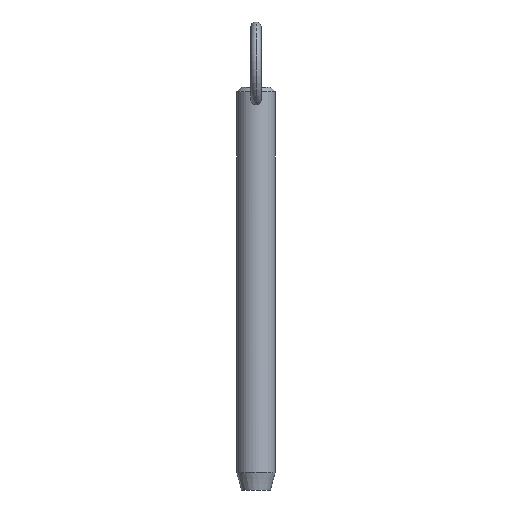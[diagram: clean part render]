
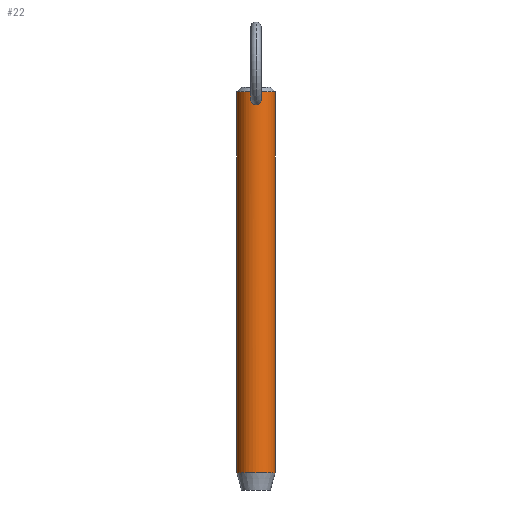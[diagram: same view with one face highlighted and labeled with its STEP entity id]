
A CAD part, front view. The second image highlights one B-rep face of the part: STEP entity #22.
In plain terms, the highlighted cylindrical face has radius 5.55 mm (diameter 11.1 mm), a partial arc.
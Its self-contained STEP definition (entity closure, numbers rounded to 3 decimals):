
#1 = CARTESIAN_POINT ( 'NONE',  ( -0.211, -5.547, 101.229 ) ) ;
#2 = CARTESIAN_POINT ( 'NONE',  ( -0.416, -5.535, 101.167 ) ) ;
#5 = CARTESIAN_POINT ( 'NONE',  ( -1.503, -5.343, 99.359 ) ) ;
#9 = DIRECTION ( 'NONE',  ( 0., 0., 1. ) ) ;
#10 = CARTESIAN_POINT ( 'NONE',  ( 1.503, -5.343, 99.359 ) ) ;
#16 = CARTESIAN_POINT ( 'NONE',  ( 1.477, -5.35, 99.044 ) ) ;
#22 = ADVANCED_FACE ( 'NONE', ( #187, #430 ), #388, .T. ) ;
#27 = B_SPLINE_CURVE_WITH_KNOTS ( 'NONE', 3,
 ( #189, #225, #501, #288, #188, #263, #454, #262, #222, #65, #108, #10, #192, #16, #64, #459, #493, #58, #332, #339, #372, #496, #136, #412, #186, #451 ),
 .UNSPECIFIED., .F., .F.,
 ( 4, 2, 2, 2, 2, 2, 2, 2, 2, 2, 2, 2, 4 ),
 ( 0.005, 0.005, 0.005, 0.006, 0.006, 0.007, 0.007, 0.008, 0.008, 0.009, 0.009, 0.009, 0.01 ),
 .UNSPECIFIED. ) ;
#29 = CARTESIAN_POINT ( 'NONE',  ( 0., -5.55, 97.777 ) ) ;
#41 = CARTESIAN_POINT ( 'NONE',  ( -0.939, -5.472, 100.81 ) ) ;
#44 = VERTEX_POINT ( 'NONE', #490 ) ;
#45 = CARTESIAN_POINT ( 'NONE',  ( -1.362, -5.381, 98.632 ) ) ;
#56 = DIRECTION ( 'NONE',  ( -1., 0., 0. ) ) ;
#58 = CARTESIAN_POINT ( 'NONE',  ( 1.055, -5.449, 98.205 ) ) ;
#64 = CARTESIAN_POINT ( 'NONE',  ( 1.455, -5.356, 98.938 ) ) ;
#65 = CARTESIAN_POINT ( 'NONE',  ( 1.44, -5.36, 99.886 ) ) ;
#66 = VERTEX_POINT ( 'NONE', #324 ) ;
#83 = CARTESIAN_POINT ( 'NONE',  ( -1.5, -5.343, 99.253 ) ) ;
#93 = CARTESIAN_POINT ( 'NONE',  ( -1.294, -5.398, 100.286 ) ) ;
#96 = EDGE_CURVE ( 'NONE', #44, #193, #320, .T. ) ;
#97 = CARTESIAN_POINT ( 'NONE',  ( -5.55, 0., 96.5 ) ) ;
#105 = EDGE_CURVE ( 'NONE', #296, #423, #27, .T. ) ;
#108 = CARTESIAN_POINT ( 'NONE',  ( 1.486, -5.347, 99.674 ) ) ;
#119 = CARTESIAN_POINT ( 'NONE',  ( -0.716, -5.504, 97.952 ) ) ;
#122 = ORIENTED_EDGE ( 'NONE', *, *, #96, .F. ) ;
#123 = VECTOR ( 'NONE', #184, 1000. ) ;
#125 = CARTESIAN_POINT ( 'NONE',  ( 0., -5.55, 101.245 ) ) ;
#129 = CIRCLE ( 'NONE', #393, 5.55 ) ;
#136 = CARTESIAN_POINT ( 'NONE',  ( 0.421, -5.535, 97.832 ) ) ;
#145 = CARTESIAN_POINT ( 'NONE',  ( 5.55, 0., 96.5 ) ) ;
#150 = EDGE_CURVE ( 'NONE', #44, #233, #257, .T. ) ;
#167 = EDGE_LOOP ( 'NONE', ( #122, #473, #365, #175 ) ) ;
#170 = CARTESIAN_POINT ( 'NONE',  ( 0., -5.55, 97.777 ) ) ;
#173 = CARTESIAN_POINT ( 'NONE',  ( -0.785, -5.497, 100.958 ) ) ;
#175 = ORIENTED_EDGE ( 'NONE', *, *, #402, .T. ) ;
#184 = DIRECTION ( 'NONE',  ( 0., 0., -1. ) ) ;
#186 = CARTESIAN_POINT ( 'NONE',  ( 0.107, -5.55, 97.777 ) ) ;
#187 = FACE_OUTER_BOUND ( 'NONE', #167, .T. ) ;
#188 = CARTESIAN_POINT ( 'NONE',  ( 0.515, -5.527, 101.122 ) ) ;
#189 = CARTESIAN_POINT ( 'NONE',  ( 0., -5.55, 101.245 ) ) ;
#192 = CARTESIAN_POINT ( 'NONE',  ( 1.5, -5.343, 99.254 ) ) ;
#193 = VERTEX_POINT ( 'NONE', #389 ) ;
#197 = DIRECTION ( 'NONE',  ( 1., 0., 0. ) ) ;
#212 = CARTESIAN_POINT ( 'NONE',  ( -1.485, -5.348, 99.679 ) ) ;
#217 = CARTESIAN_POINT ( 'NONE',  ( 0., 0., -9.2 ) ) ;
#218 = CARTESIAN_POINT ( 'NONE',  ( 0., 0., 96.5 ) ) ;
#222 = CARTESIAN_POINT ( 'NONE',  ( 1.295, -5.397, 100.282 ) ) ;
#225 = CARTESIAN_POINT ( 'NONE',  ( 0.106, -5.55, 101.245 ) ) ;
#233 = VERTEX_POINT ( 'NONE', #274 ) ;
#234 = ORIENTED_EDGE ( 'NONE', *, *, #105, .T. ) ;
#242 = CARTESIAN_POINT ( 'NONE',  ( -0.212, -5.547, 97.788 ) ) ;
#249 = AXIS2_PLACEMENT_3D ( 'NONE', #504, #301, #197 ) ;
#255 = DIRECTION ( 'NONE',  ( 0., 0., -1. ) ) ;
#257 = CIRCLE ( 'NONE', #249, 5.55 ) ;
#262 = CARTESIAN_POINT ( 'NONE',  ( 1.194, -5.422, 100.471 ) ) ;
#263 = CARTESIAN_POINT ( 'NONE',  ( 0.786, -5.497, 100.957 ) ) ;
#272 = EDGE_CURVE ( 'NONE', #423, #296, #502, .T. ) ;
#274 = CARTESIAN_POINT ( 'NONE',  ( -5.55, 0., 101.55 ) ) ;
#284 = CARTESIAN_POINT ( 'NONE',  ( 0., -5.55, 101.245 ) ) ;
#285 = CARTESIAN_POINT ( 'NONE',  ( -1.26, -5.407, 98.442 ) ) ;
#288 = CARTESIAN_POINT ( 'NONE',  ( 0.417, -5.535, 101.167 ) ) ;
#296 = VERTEX_POINT ( 'NONE', #125 ) ;
#301 = DIRECTION ( 'NONE',  ( 0., 0., -1. ) ) ;
#304 = CARTESIAN_POINT ( 'NONE',  ( -0.523, -5.526, 97.866 ) ) ;
#306 = CARTESIAN_POINT ( 'NONE',  ( -1.054, -5.449, 98.204 ) ) ;
#315 = CARTESIAN_POINT ( 'NONE',  ( -0.106, -5.55, 101.245 ) ) ;
#320 = LINE ( 'NONE', #145, #447 ) ;
#324 = CARTESIAN_POINT ( 'NONE',  ( -5.55, 0., -9.2 ) ) ;
#332 = CARTESIAN_POINT ( 'NONE',  ( 0.977, -5.464, 98.132 ) ) ;
#339 = CARTESIAN_POINT ( 'NONE',  ( 0.807, -5.492, 98.006 ) ) ;
#346 = ORIENTED_EDGE ( 'NONE', *, *, #272, .T. ) ;
#365 = ORIENTED_EDGE ( 'NONE', *, *, #466, .T. ) ;
#372 = CARTESIAN_POINT ( 'NONE',  ( 0.716, -5.504, 97.952 ) ) ;
#379 = LINE ( 'NONE', #97, #123 ) ;
#388 = CYLINDRICAL_SURFACE ( 'NONE', #470, 5.55 ) ;
#389 = CARTESIAN_POINT ( 'NONE',  ( 5.55, 0., -9.2 ) ) ;
#393 = AXIS2_PLACEMENT_3D ( 'NONE', #217, #9, #56 ) ;
#394 = EDGE_LOOP ( 'NONE', ( #234, #346 ) ) ;
#402 = EDGE_CURVE ( 'NONE', #66, #193, #129, .T. ) ;
#403 = CARTESIAN_POINT ( 'NONE',  ( -1.195, -5.421, 100.471 ) ) ;
#404 = CARTESIAN_POINT ( 'NONE',  ( -1.455, -5.356, 98.936 ) ) ;
#412 = CARTESIAN_POINT ( 'NONE',  ( 0.213, -5.547, 97.788 ) ) ;
#423 = VERTEX_POINT ( 'NONE', #170 ) ;
#429 = CARTESIAN_POINT ( 'NONE',  ( -0.807, -5.492, 98.005 ) ) ;
#430 = FACE_BOUND ( 'NONE', #394, .T. ) ;
#433 = CARTESIAN_POINT ( 'NONE',  ( -0.107, -5.55, 97.777 ) ) ;
#440 = CARTESIAN_POINT ( 'NONE',  ( -1.44, -5.36, 99.887 ) ) ;
#445 = DIRECTION ( 'NONE',  ( 0., 0., -1. ) ) ;
#447 = VECTOR ( 'NONE', #255, 1000. ) ;
#451 = CARTESIAN_POINT ( 'NONE',  ( 0., -5.55, 97.777 ) ) ;
#454 = CARTESIAN_POINT ( 'NONE',  ( 0.941, -5.471, 100.807 ) ) ;
#459 = CARTESIAN_POINT ( 'NONE',  ( 1.363, -5.38, 98.634 ) ) ;
#466 = EDGE_CURVE ( 'NONE', #233, #66, #379, .T. ) ;
#470 = AXIS2_PLACEMENT_3D ( 'NONE', #218, #445, #488 ) ;
#473 = ORIENTED_EDGE ( 'NONE', *, *, #150, .T. ) ;
#488 = DIRECTION ( 'NONE',  ( -1., 0., 0. ) ) ;
#490 = CARTESIAN_POINT ( 'NONE',  ( 5.55, 0., 101.55 ) ) ;
#493 = CARTESIAN_POINT ( 'NONE',  ( 1.26, -5.407, 98.443 ) ) ;
#496 = CARTESIAN_POINT ( 'NONE',  ( 0.523, -5.526, 97.866 ) ) ;
#501 = CARTESIAN_POINT ( 'NONE',  ( 0.214, -5.547, 101.228 ) ) ;
#502 = B_SPLINE_CURVE_WITH_KNOTS ( 'NONE', 3,
 ( #29, #433, #242, #522, #304, #119, #429, #513, #306, #285, #45, #404, #524, #83, #5, #212, #440, #93, #403, #41, #173, #527, #2, #1, #315, #284 ),
 .UNSPECIFIED., .F., .F.,
 ( 4, 2, 2, 2, 2, 2, 2, 2, 2, 2, 2, 2, 4 ),
 ( 0.01, 0.01, 0.01, 0.011, 0.011, 0.012, 0.012, 0.012, 0.013, 0.013, 0.014, 0.014, 0.015 ),
 .UNSPECIFIED. ) ;
#504 = CARTESIAN_POINT ( 'NONE',  ( 0., 0., 101.55 ) ) ;
#513 = CARTESIAN_POINT ( 'NONE',  ( -0.976, -5.464, 98.131 ) ) ;
#522 = CARTESIAN_POINT ( 'NONE',  ( -0.42, -5.535, 97.832 ) ) ;
#524 = CARTESIAN_POINT ( 'NONE',  ( -1.477, -5.35, 99.042 ) ) ;
#527 = CARTESIAN_POINT ( 'NONE',  ( -0.513, -5.527, 101.123 ) ) ;
